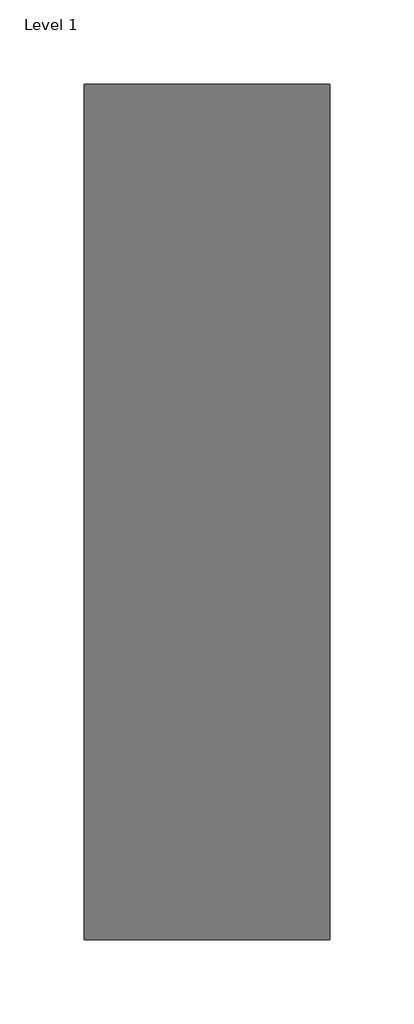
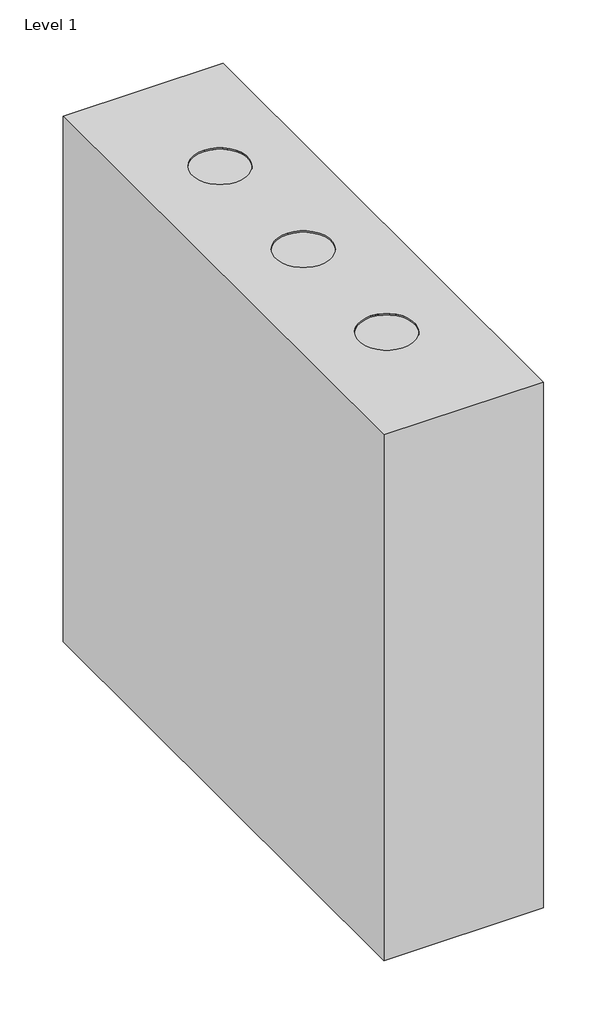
# One storey: 1 proxy.
"""IFC4 building model written with IfcOpenShell, lengths in millimetres."""

from ifc_helpers import new_model, si_unit, origin, place, context, project, spatial, transform, mapped, element, save
from components import lighting_and_appliance_panelboard_208v_100_a_7126e705

model = new_model("IFC4")

# Units and contexts
model_context = context("Model", 3, world=origin())
ifc_project = project(units=[si_unit("LENGTHUNIT", "METRE", prefix="MILLI")], contexts=[model_context])

# Site, building, storey
site = spatial("IfcSite", under=ifc_project)
building = spatial("IfcBuilding", under=site)
storey = spatial("IfcBuildingStorey", under=building, Name="Level 1", Elevation=0.0)

# Proxy
placement = place(None, origin())
lighting_and_appliance_panelboard_208v_100_a_shape = lighting_and_appliance_panelboard_208v_100_a_7126e705(model_context)
element("IfcBuildingElementProxy", 1, Name="Lighting and Appliance Panelboard - 208V : 100 A", ObjectType="Lighting and Appliance Panelboard - 208V : 100 A", at=placement, inside=storey, context=model_context, shape_type="MappedRepresentation", body=[
    mapped(lighting_and_appliance_panelboard_208v_100_a_shape, transform((-10618.9849987, -1010.0319031, 1219.2), x_axis=(0.0, 1.0, 0.0), y_axis=(0.0, 0.0, -1.0), z_axis=(-1.0, 0.0, 0.0))),
])

save(model, "model.ifc")
